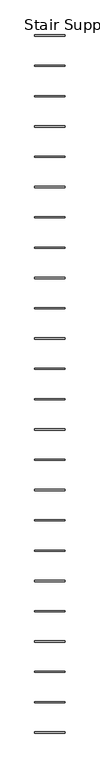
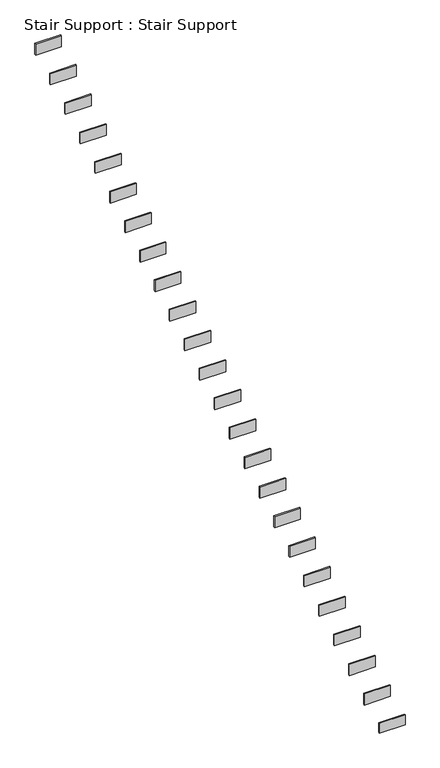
"""IFC4 building model written with IfcOpenShell, lengths in millimetres: proxy geometry, Stair Support : Stair Support."""

from ifc_helpers import new_model, si_unit, frame, origin, origin_with_axes, place, context, project, spatial, polyline, outline, extrude, source, transform, mapped, element, save


def stair_support_stair_support_e1d7b737(model_context):
    return source(origin(), model_context, "Body", "SweptSolid", [
        extrude(outline(polyline([(19831.9375783, -12224.2233484), (19831.9375783, -12234.2233484), (19581.9375783, -12234.2233484), (19581.9375783, -12224.2233484), (19831.9375783, -12224.2233484)])), origin_with_axes(), (0.0, 0.0, 1.0), 100.0),
        extrude(outline(polyline([(-6474.2233484, 3440.7985269), (-6484.2233484, 3434.7985269), (-6484.2233484, 3550.0), (-6474.2233484, 3550.0), (-6474.2233484, 3440.7985269)])), frame((19581.9375783, 0.0, 0.0), z_axis=(1.0, 0.0, 0.0), x_axis=(0.0, 1.0, 0.0)), (0.0, 0.0, 1.0), 250.0),
        extrude(outline(polyline([(-6724.2233484, 3290.7985269), (-6734.2233484, 3284.7985269), (-6734.2233484, 3400.0), (-6724.2233484, 3400.0), (-6724.2233484, 3290.7985269)])), frame((19581.9375783, 0.0, 0.0), z_axis=(1.0, 0.0, 0.0), x_axis=(0.0, 1.0, 0.0)), (0.0, 0.0, 1.0), 250.0),
        extrude(outline(polyline([(-6974.2233484, 3140.7985269), (-6984.2233484, 3134.7985269), (-6984.2233484, 3250.0), (-6974.2233484, 3250.0), (-6974.2233484, 3140.7985269)])), frame((19581.9375783, 0.0, 0.0), z_axis=(1.0, 0.0, 0.0), x_axis=(0.0, 1.0, 0.0)), (0.0, 0.0, 1.0), 250.0),
        extrude(outline(polyline([(-7224.2233484, 2990.7985269), (-7234.2233484, 2984.7985269), (-7234.2233484, 3100.0), (-7224.2233484, 3100.0), (-7224.2233484, 2990.7985269)])), frame((19581.9375783, 0.0, 0.0), z_axis=(1.0, 0.0, 0.0), x_axis=(0.0, 1.0, 0.0)), (0.0, 0.0, 1.0), 250.0),
        extrude(outline(polyline([(-7474.2233484, 2840.7985269), (-7484.2233484, 2834.7985269), (-7484.2233484, 2950.0), (-7474.2233484, 2950.0), (-7474.2233484, 2840.7985269)])), frame((19581.9375783, 0.0, 0.0), z_axis=(1.0, 0.0, 0.0), x_axis=(0.0, 1.0, 0.0)), (0.0, 0.0, 1.0), 250.0),
        extrude(outline(polyline([(-7724.2233484, 2690.7985269), (-7734.2233484, 2684.7985269), (-7734.2233484, 2800.0), (-7724.2233484, 2800.0), (-7724.2233484, 2690.7985269)])), frame((19581.9375783, 0.0, 0.0), z_axis=(1.0, 0.0, 0.0), x_axis=(0.0, 1.0, 0.0)), (0.0, 0.0, 1.0), 250.0),
        extrude(outline(polyline([(-7974.2233484, 2540.7985269), (-7984.2233484, 2534.7985269), (-7984.2233484, 2650.0), (-7974.2233484, 2650.0), (-7974.2233484, 2540.7985269)])), frame((19581.9375783, 0.0, 0.0), z_axis=(1.0, 0.0, 0.0), x_axis=(0.0, 1.0, 0.0)), (0.0, 0.0, 1.0), 250.0),
        extrude(outline(polyline([(-8224.2233484, 2390.7985269), (-8234.2233484, 2384.7985269), (-8234.2233484, 2500.0), (-8224.2233484, 2500.0), (-8224.2233484, 2390.7985269)])), frame((19581.9375783, 0.0, 0.0), z_axis=(1.0, 0.0, 0.0), x_axis=(0.0, 1.0, 0.0)), (0.0, 0.0, 1.0), 250.0),
        extrude(outline(polyline([(-8474.2233484, 2240.7985269), (-8484.2233484, 2234.7985269), (-8484.2233484, 2350.0), (-8474.2233484, 2350.0), (-8474.2233484, 2240.7985269)])), frame((19581.9375783, 0.0, 0.0), z_axis=(1.0, 0.0, 0.0), x_axis=(0.0, 1.0, 0.0)), (0.0, 0.0, 1.0), 250.0),
        extrude(outline(polyline([(-8724.2233484, 2090.7985269), (-8734.2233484, 2084.7985269), (-8734.2233484, 2200.0), (-8724.2233484, 2200.0), (-8724.2233484, 2090.7985269)])), frame((19581.9375783, 0.0, 0.0), z_axis=(1.0, 0.0, 0.0), x_axis=(0.0, 1.0, 0.0)), (0.0, 0.0, 1.0), 250.0),
        extrude(outline(polyline([(-8974.2233484, 1940.7985269), (-8984.2233484, 1934.7985269), (-8984.2233484, 2050.0), (-8974.2233484, 2050.0), (-8974.2233484, 1940.7985269)])), frame((19581.9375783, 0.0, 0.0), z_axis=(1.0, 0.0, 0.0), x_axis=(0.0, 1.0, 0.0)), (0.0, 0.0, 1.0), 250.0),
        extrude(outline(polyline([(-9224.2233484, 1790.7985269), (-9234.2233484, 1784.7985269), (-9234.2233484, 1900.0), (-9224.2233484, 1900.0), (-9224.2233484, 1790.7985269)])), frame((19581.9375783, 0.0, 0.0), z_axis=(1.0, 0.0, 0.0), x_axis=(0.0, 1.0, 0.0)), (0.0, 0.0, 1.0), 250.0),
        extrude(outline(polyline([(-9474.2233484, 1640.7985269), (-9484.2233484, 1634.7985269), (-9484.2233484, 1750.0), (-9474.2233484, 1750.0), (-9474.2233484, 1640.7985269)])), frame((19581.9375783, 0.0, 0.0), z_axis=(1.0, 0.0, 0.0), x_axis=(0.0, 1.0, 0.0)), (0.0, 0.0, 1.0), 250.0),
        extrude(outline(polyline([(-9724.2233484, 1490.7985269), (-9734.2233484, 1484.7985269), (-9734.2233484, 1600.0), (-9724.2233484, 1600.0), (-9724.2233484, 1490.7985269)])), frame((19581.9375783, 0.0, 0.0), z_axis=(1.0, 0.0, 0.0), x_axis=(0.0, 1.0, 0.0)), (0.0, 0.0, 1.0), 250.0),
        extrude(outline(polyline([(-9974.2233484, 1340.7985269), (-9984.2233484, 1334.7985269), (-9984.2233484, 1450.0), (-9974.2233484, 1450.0), (-9974.2233484, 1340.7985269)])), frame((19581.9375783, 0.0, 0.0), z_axis=(1.0, 0.0, 0.0), x_axis=(0.0, 1.0, 0.0)), (0.0, 0.0, 1.0), 250.0),
        extrude(outline(polyline([(-10224.2233484, 1190.7985269), (-10234.2233484, 1184.7985269), (-10234.2233484, 1300.0), (-10224.2233484, 1300.0), (-10224.2233484, 1190.7985269)])), frame((19581.9375783, 0.0, 0.0), z_axis=(1.0, 0.0, 0.0), x_axis=(0.0, 1.0, 0.0)), (0.0, 0.0, 1.0), 250.0),
        extrude(outline(polyline([(-10474.2233484, 1040.7985269), (-10484.2233484, 1034.7985269), (-10484.2233484, 1150.0), (-10474.2233484, 1150.0), (-10474.2233484, 1040.7985269)])), frame((19581.9375783, 0.0, 0.0), z_axis=(1.0, 0.0, 0.0), x_axis=(0.0, 1.0, 0.0)), (0.0, 0.0, 1.0), 250.0),
        extrude(outline(polyline([(-10724.2233484, 890.7985269), (-10734.2233484, 884.7985269), (-10734.2233484, 1000.0), (-10724.2233484, 1000.0), (-10724.2233484, 890.7985269)])), frame((19581.9375783, 0.0, 0.0), z_axis=(1.0, 0.0, 0.0), x_axis=(0.0, 1.0, 0.0)), (0.0, 0.0, 1.0), 250.0),
        extrude(outline(polyline([(-10974.2233484, 740.7985269), (-10984.2233484, 734.7985269), (-10984.2233484, 850.0), (-10974.2233484, 850.0), (-10974.2233484, 740.7985269)])), frame((19581.9375783, 0.0, 0.0), z_axis=(1.0, 0.0, 0.0), x_axis=(0.0, 1.0, 0.0)), (0.0, 0.0, 1.0), 250.0),
        extrude(outline(polyline([(-11224.2233484, 590.7985269), (-11234.2233484, 584.7985269), (-11234.2233484, 700.0), (-11224.2233484, 700.0), (-11224.2233484, 590.7985269)])), frame((19581.9375783, 0.0, 0.0), z_axis=(1.0, 0.0, 0.0), x_axis=(0.0, 1.0, 0.0)), (0.0, 0.0, 1.0), 250.0),
        extrude(outline(polyline([(-11474.2233484, 440.7985269), (-11484.2233484, 434.7985269), (-11484.2233484, 550.0), (-11474.2233484, 550.0), (-11474.2233484, 440.7985269)])), frame((19581.9375783, 0.0, 0.0), z_axis=(1.0, 0.0, 0.0), x_axis=(0.0, 1.0, 0.0)), (0.0, 0.0, 1.0), 250.0),
        extrude(outline(polyline([(-11724.2233484, 290.7985269), (-11734.2233484, 284.7985269), (-11734.2233484, 400.0), (-11724.2233484, 400.0), (-11724.2233484, 290.7985269)])), frame((19581.9375783, 0.0, 0.0), z_axis=(1.0, 0.0, 0.0), x_axis=(0.0, 1.0, 0.0)), (0.0, 0.0, 1.0), 250.0),
        extrude(outline(polyline([(-11974.2233484, 140.7985269), (-11984.2233484, 134.7985269), (-11984.2233484, 250.0), (-11974.2233484, 250.0), (-11974.2233484, 140.7985269)])), frame((19581.9375783, 0.0, 0.0), z_axis=(1.0, 0.0, 0.0), x_axis=(0.0, 1.0, 0.0)), (0.0, 0.0, 1.0), 250.0),
    ])


if __name__ == "__main__":
    model = new_model("IFC4")
    model_context = context("Model", 3, world=origin())
    ifc_project = project(units=[si_unit("LENGTHUNIT", "METRE", prefix="MILLI")], contexts=[model_context])
    site = spatial("IfcSite", under=ifc_project)
    building = spatial("IfcBuilding", under=site)
    placement = place(None, origin())
    stair_support_stair_support_shape = stair_support_stair_support_e1d7b737(model_context)
    element("IfcBuildingElementProxy", 1, Name="Stair Support : Stair Support", ObjectType="Stair Support : Stair Support", at=placement, inside=building, context=model_context, shape_type="MappedRepresentation", body=[
        mapped(stair_support_stair_support_shape, transform((0.0, 0.0, 0.0), x_axis=(1.0, 0.0, 0.0), y_axis=(0.0, 1.0, 0.0), z_axis=(0.0, 0.0, 1.0))),
    ])
    save(model, "model.ifc")
